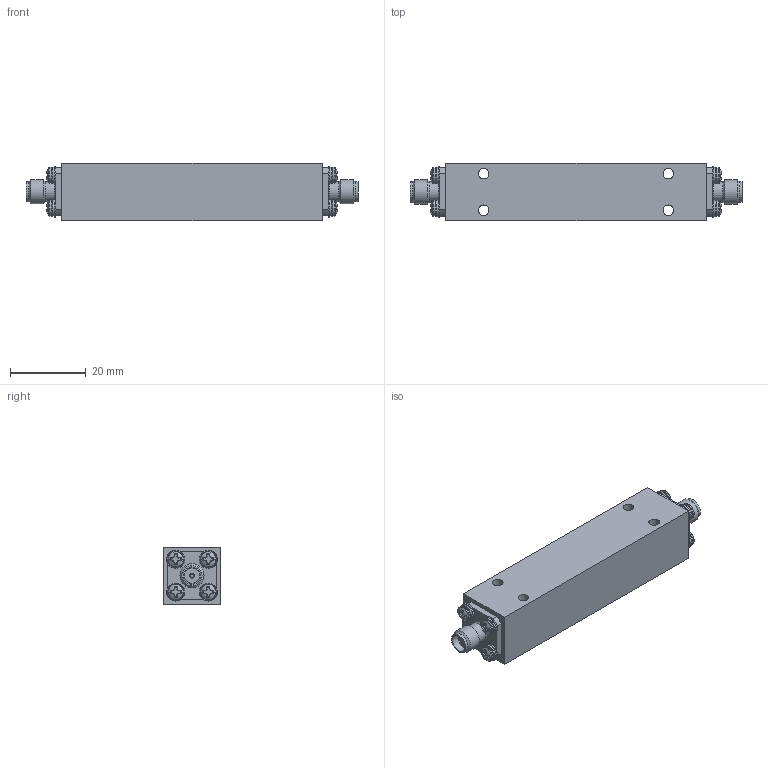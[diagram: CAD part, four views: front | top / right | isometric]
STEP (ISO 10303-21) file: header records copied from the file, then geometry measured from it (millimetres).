
FILE_DESCRIPTION(/* description */ (''),/* implementation_level */ '2;1');
FILE_NAME(/* name */ '\\uesvr4\Engineering\Engineering_Documentation_&_CAD\Source_&_Reference_Files_For_Engineering\Reference_File\3D_Step_Files\VY3280_Rev-OR\VY3280_Rev-OR.stp',/* time_stamp */ '2022-02-05T08:28:08+06:00',/* author */ ('Nandakumar'),/* organization */ (''),/* preprocessor_version */ 'ST-DEVELOPER v18.1',/* originating_system */ 'AutoCAD Mechanical',/* authorisation */ '');
FILE_SCHEMA (('AUTOMOTIVE_DESIGN { 1 0 10303 214 3 1 1 }'));
Length unit declared in the file: inch
Products named in the file (1): Product
Bounding box: 87.66 x 15.24 x 15.24 mm (x, y, z)
Volume: 16668.4 mm3; surface area: 6021 mm2
Topology: 1 solids, 1 shells, 434 faces, 1232 edges, 828 vertices
Faces by surface type: plane 186, cylinder 154, cone 44, torus 34, sphere 16
Full cylindrical faces by diameter (mm): 0.94 x2, 1.27 x2, 2.794 x4, 4.089 x2, 4.369 x8, 4.615 x2, 4.75 x8, 5.334 x4, 6.35 x2
Entity records: 14743 total; most frequent: CARTESIAN_POINT 3455, ORIENTED_EDGE 2464, DIRECTION 2380, EDGE_CURVE 1232, AXIS2_PLACEMENT_3D 969, VERTEX_POINT 828, CIRCLE 534, EDGE_LOOP 470
